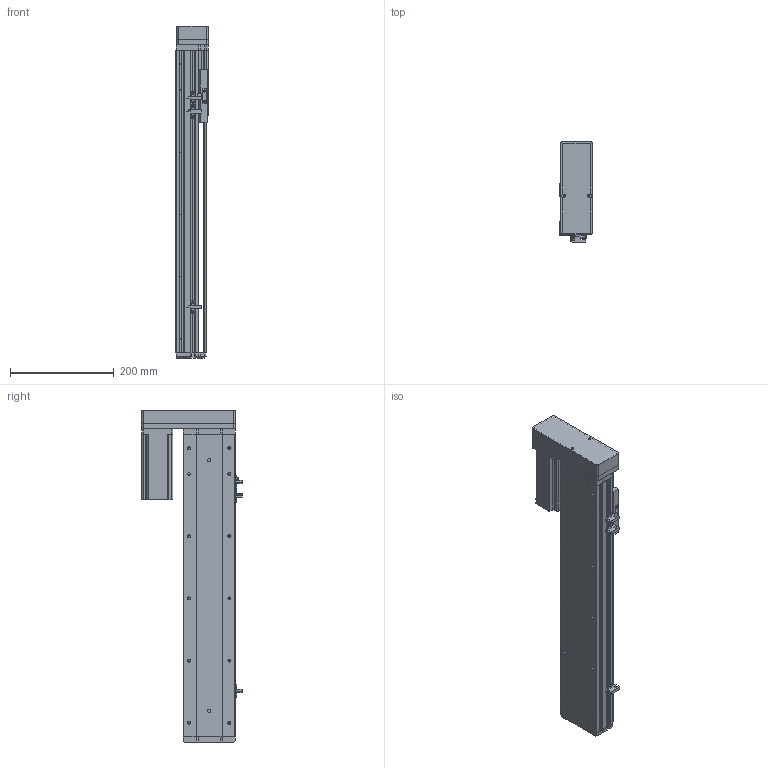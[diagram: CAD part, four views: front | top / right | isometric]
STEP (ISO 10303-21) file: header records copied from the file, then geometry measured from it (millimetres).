
FILE_DESCRIPTION (( 'STEP AP214' ), '1' );
FILE_NAME ('KSD100S-S400-ML-CM.STEP', '2019-08-30T06:01:45', ( '微软用户' ), ( '微软中国' ), 'SwSTEP 2.0', 'SolidWorks 2014', '' );
FILE_SCHEMA (( 'AUTOMOTIVE_DESIGN' ));
Length unit declared in the file: millimetre
Products named in the file (11): 悵誘欶酘衵殏; 台达ECMA－C20604AS伺服电机; 100宽马达安装板连板左右折丝杆; U倰嫖萇EEㄜSX672; 覜茼え100遵圉猾敕; 100宽防尘板丝杆400行程; 100遵鎮湛假蚾啣; 100宽滚珠螺姆安装板半封闭; 100遵傷啣; 100宽底板半封闭丝杆400行程; KSD100S-S400-ML-CM
Assembly tree (12 placements, depth 2):
  KSD100S-S400-ML-CM
    100宽底板半封闭丝杆400行程
    100遵傷啣
    100宽滚珠螺姆安装板半封闭
    100遵鎮湛假蚾啣
    100宽防尘板丝杆400行程
    覜茼え100遵圉猾敕
    U倰嫖萇EEㄜSX672  x3
    100宽马达安装板连板左右折丝杆
    台达ECMA－C20604AS伺服电机
    悵誘欶酘衵殏
Bounding box: 62 x 193.7 x 640.5 mm (x, y, z)
Volume: 1830680.2 mm3; surface area: 565143.7 mm2
Topology: 13 solids, 13 shells, 1175 faces, 3306 edges, 2111 vertices
Faces by surface type: cylinder 568, plane 500, cone 107
Entity records: 40171 total; most frequent: CARTESIAN_POINT 7571, DIRECTION 5517, ORIENTED_EDGE 5304, EDGE_CURVE 2652, AXIS2_PLACEMENT_3D 1997, VERTEX_POINT 1735, VECTOR 1523, LINE 1523
